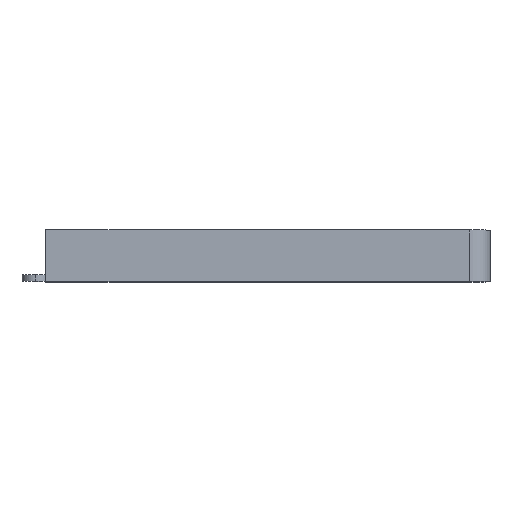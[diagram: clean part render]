
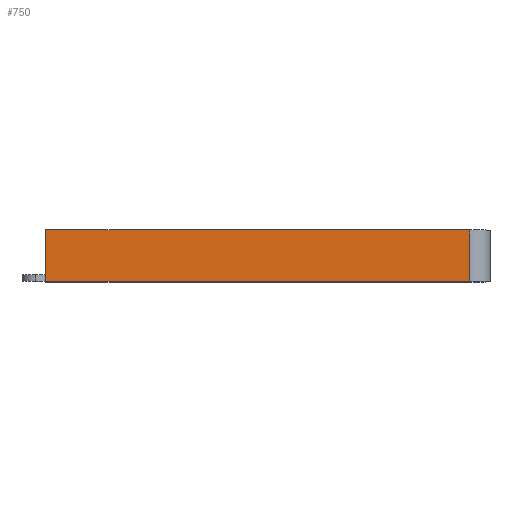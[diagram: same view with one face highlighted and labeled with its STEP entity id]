
A CAD part, top view. The second image highlights one B-rep face of the part: STEP entity #750.
In plain terms, the highlighted planar face has unit normal (0, 0, 1).
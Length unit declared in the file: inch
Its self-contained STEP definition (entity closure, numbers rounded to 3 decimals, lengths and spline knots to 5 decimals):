
#240 = ORIENTED_EDGE ( 'NONE', *, *, #1627, .F. ) ;
#550 = CARTESIAN_POINT ( 'NONE',  ( 0., 0., 2.0625 ) ) ;
#593 = LINE ( 'NONE', #4361, #3182 ) ;
#647 = VECTOR ( 'NONE', #4335, 39.37008 ) ;
#673 = CARTESIAN_POINT ( 'NONE',  ( -2., 0., 2.0625 ) ) ;
#750 = ADVANCED_FACE ( 'NONE', ( #3904 ), #2236, .F. ) ;
#952 = LINE ( 'NONE', #550, #3469 ) ;
#1012 = ORIENTED_EDGE ( 'NONE', *, *, #4090, .T. ) ;
#1060 = CARTESIAN_POINT ( 'NONE',  ( 1.875, 0.46875, 2.0625 ) ) ;
#1091 = VERTEX_POINT ( 'NONE', #1060 ) ;
#1181 = LINE ( 'NONE', #2898, #3386 ) ;
#1375 = CARTESIAN_POINT ( 'NONE',  ( 1.875, 0., 2.0625 ) ) ;
#1406 = AXIS2_PLACEMENT_3D ( 'NONE', #3927, #3970, #4258 ) ;
#1627 = EDGE_CURVE ( 'NONE', #2493, #1091, #593, .T. ) ;
#1649 = CARTESIAN_POINT ( 'NONE',  ( -2., 0.46875, 2.0625 ) ) ;
#2236 = PLANE ( 'NONE',  #1406 ) ;
#2269 = ORIENTED_EDGE ( 'NONE', *, *, #4388, .T. ) ;
#2308 = LINE ( 'NONE', #2700, #647 ) ;
#2431 = EDGE_CURVE ( 'NONE', #2468, #1091, #2308, .T. ) ;
#2468 = VERTEX_POINT ( 'NONE', #1375 ) ;
#2493 = VERTEX_POINT ( 'NONE', #1649 ) ;
#2700 = CARTESIAN_POINT ( 'NONE',  ( 1.875, 0.4375, 2.0625 ) ) ;
#2707 = VERTEX_POINT ( 'NONE', #673 ) ;
#2729 = DIRECTION ( 'NONE',  ( 1., 0., 0. ) ) ;
#2886 = DIRECTION ( 'NONE',  ( 1., 0., 0. ) ) ;
#2898 = CARTESIAN_POINT ( 'NONE',  ( -2., 0.4375, 2.0625 ) ) ;
#3110 = EDGE_LOOP ( 'NONE', ( #2269, #3802, #240, #1012 ) ) ;
#3182 = VECTOR ( 'NONE', #2729, 39.37008 ) ;
#3386 = VECTOR ( 'NONE', #3494, 39.37008 ) ;
#3469 = VECTOR ( 'NONE', #2886, 39.37008 ) ;
#3494 = DIRECTION ( 'NONE',  ( 0., -1., 0. ) ) ;
#3802 = ORIENTED_EDGE ( 'NONE', *, *, #2431, .T. ) ;
#3904 = FACE_OUTER_BOUND ( 'NONE', #3110, .T. ) ;
#3927 = CARTESIAN_POINT ( 'NONE',  ( 0., 0.4375, 2.0625 ) ) ;
#3970 = DIRECTION ( 'NONE',  ( 0., 0., -1. ) ) ;
#4090 = EDGE_CURVE ( 'NONE', #2493, #2707, #1181, .T. ) ;
#4258 = DIRECTION ( 'NONE',  ( -1., 0., 0. ) ) ;
#4335 = DIRECTION ( 'NONE',  ( 0., 1., 0. ) ) ;
#4361 = CARTESIAN_POINT ( 'NONE',  ( -2., 0.46875, 2.0625 ) ) ;
#4388 = EDGE_CURVE ( 'NONE', #2707, #2468, #952, .T. ) ;
